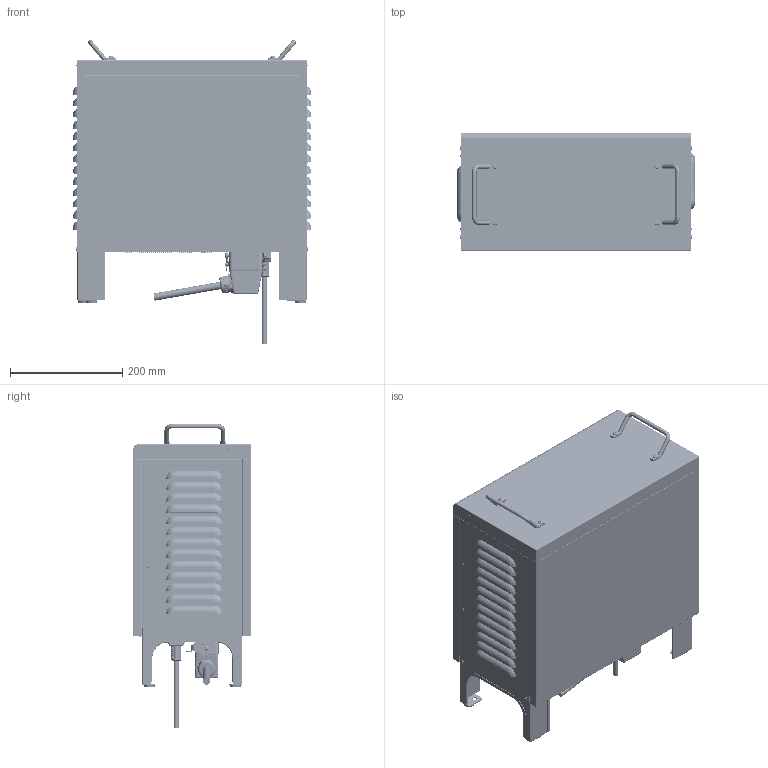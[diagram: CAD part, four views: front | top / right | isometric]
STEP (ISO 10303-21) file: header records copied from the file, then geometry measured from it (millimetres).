
FILE_DESCRIPTION((''),'2;1');
FILE_NAME('TMAA_CONTROL_BOX','2018-08-03T',('bluedevils'),(''),'PRO/ENGINEER BY PARAMETRIC TECHNOLOGY CORPORATION, 2015240','PRO/ENGINEER BY PARAMETRIC TECHNOLOGY CORPORATION, 2015240','');
FILE_SCHEMA(('CONFIG_CONTROL_DESIGN'));
Products named in the file (1): TMAA_CONTROL_BOX
Bounding box: 424 x 210.1 x 541.17 mm (x, y, z)
Volume: 1403750.3 mm3; surface area: 2062365.1 mm2
Topology: 1 solids, 8 shells, 8427 faces, 22016 edges, 14179 vertices
Faces by surface type: plane 4086, cylinder 2802, cone 760, torus 331, bspline 327, sphere 89, extrusion 28, revolution 4
Entity records: 326223 total; most frequent: CARTESIAN_POINT 116566, ORIENTED_EDGE 43986, DIRECTION 43052, EDGE_CURVE 21993, AXIS2_PLACEMENT_3D 15129, VERTEX_POINT 14179, VECTOR 12790, LINE 12762
